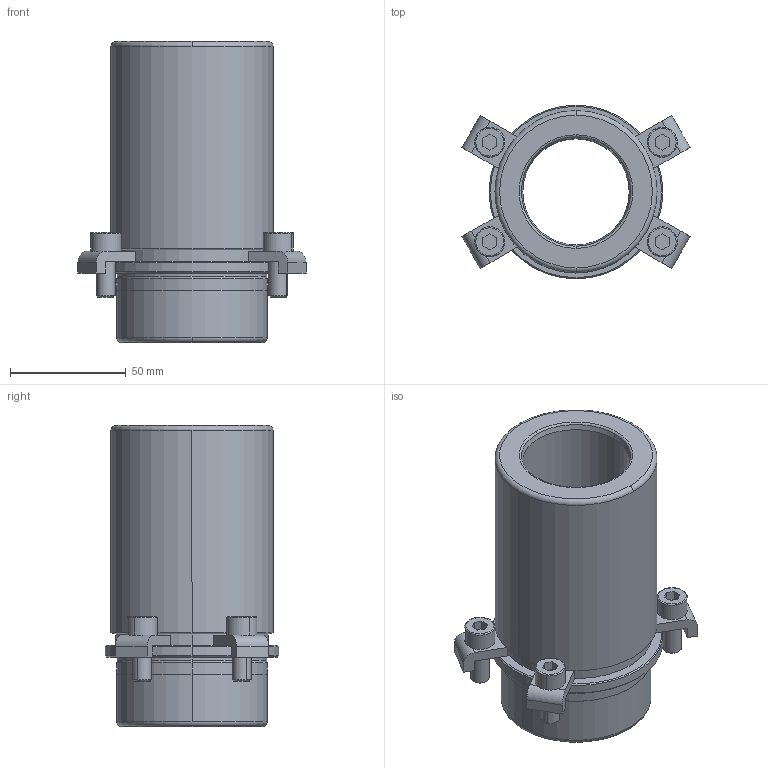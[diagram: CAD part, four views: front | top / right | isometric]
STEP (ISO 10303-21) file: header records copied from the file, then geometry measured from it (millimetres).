
FILE_DESCRIPTION((''),'2;1');
FILE_NAME('B40_038_100.stp','2009-01-05T16:31:47',(''),(''),'Mechanical Desktop 2009','Mechanical Desktop 2009',', , ');
FILE_SCHEMA(('CONFIG_CONTROL_DESIGN'));
Length unit declared in the file: millimetre
Products named in the file (2): Product; blmdl1
Assembly tree (1 placements, depth 2):
  Product
    blmdl1
Bounding box: 98.54 x 75 x 130 mm (x, y, z)
Volume: 281463.5 mm3; surface area: 61424.6 mm2
Topology: 9 solids, 9 shells, 173 faces, 422 edges, 278 vertices
Faces by surface type: plane 73, cylinder 50, cone 22, torus 16, bspline 12
Entity records: 5767 total; most frequent: CARTESIAN_POINT 1403, DIRECTION 966, ORIENTED_EDGE 844, EDGE_CURVE 422, AXIS2_PLACEMENT_3D 381, VERTEX_POINT 278, CIRCLE 218, VECTOR 204
